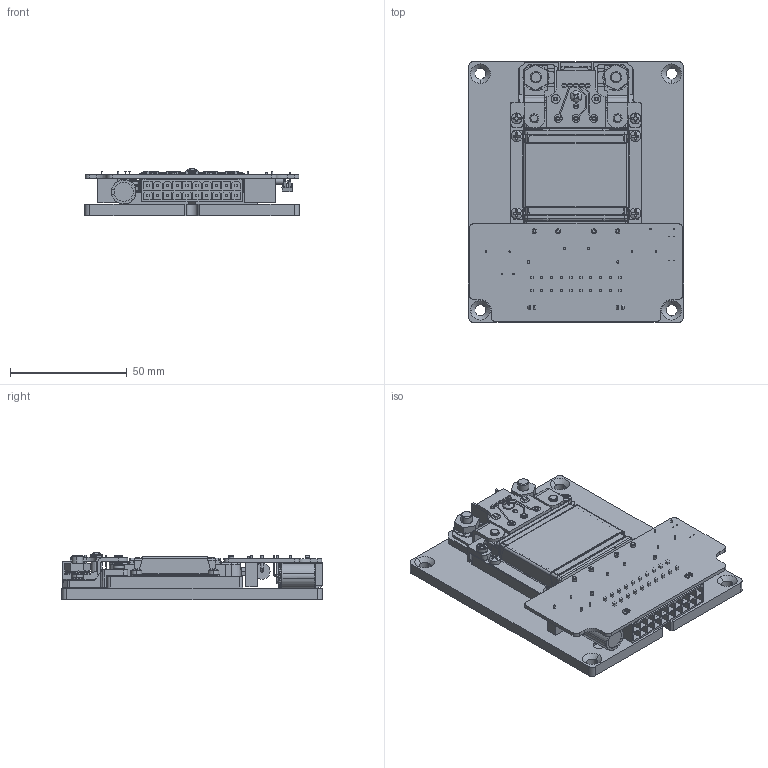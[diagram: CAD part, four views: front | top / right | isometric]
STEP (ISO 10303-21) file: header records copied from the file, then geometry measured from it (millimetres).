
FILE_DESCRIPTION (( 'STEP AP214' ), '1' );
FILE_NAME ('NEW_VA_G_LUG_1OUT.STEP', '2011-02-17T16:47:55', ( 'Vicor Employee' ), ( 'Vicor Corporation' ), 'SwSTEP 2.0', 'SolidWorks 2011', '' );
FILE_SCHEMA (( 'AUTOMOTIVE_DESIGN' ));
Length unit declared in the file: inch
Products named in the file (1): NEW_VA_G_LUG_1OUT
Bounding box: 92.28 x 111.83 x 20.26 mm (x, y, z)
Volume: 79628.9 mm3; surface area: 70570.4 mm2
Topology: 1 solids, 1 shells, 3173 faces, 8480 edges, 5461 vertices
Faces by surface type: plane 1957, cylinder 783, bspline 197, cone 156, torus 50, sphere 30
Entity records: 149408 total; most frequent: CARTESIAN_POINT 29816, ORIENTED_EDGE 16928, DIRECTION 15412, EDGE_CURVE 8464, LINE 5770, VECTOR 5770, VERTEX_POINT 5461, AXIS2_PLACEMENT_3D 4821
